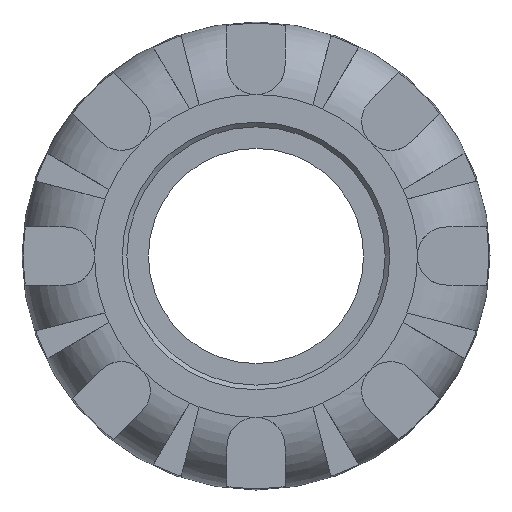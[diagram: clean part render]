
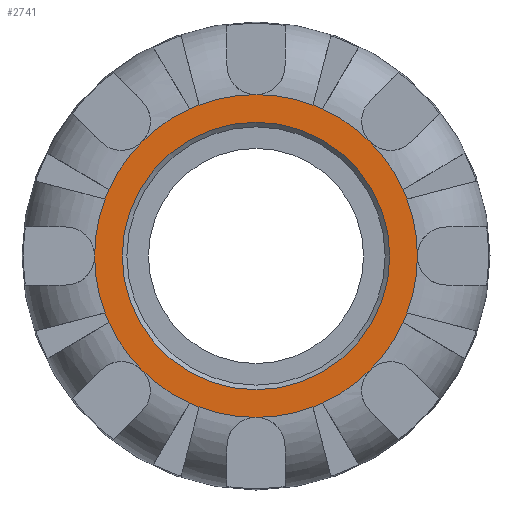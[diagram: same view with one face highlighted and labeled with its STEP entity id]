
A CAD part, left-side view. The second image highlights one B-rep face of the part: STEP entity #2741.
In plain terms, the highlighted planar face has unit normal (-1, 0, 0).
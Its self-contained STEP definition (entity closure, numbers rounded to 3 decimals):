
#22=FACE_BOUND('',#619,.T.);
#47=PLANE('',#2921);
#453=FACE_OUTER_BOUND('',#618,.T.);
#618=EDGE_LOOP('',(#1765,#1766,#1767,#1768,#1769,#1770,#1771,#1772,#1773,
#1774,#1775,#1776,#1777,#1778,#1779,#1780,#1781,#1782,#1783,#1784,#1785,
#1786,#1787,#1788));
#619=EDGE_LOOP('',(#1789));
#796=CIRCLE('',#2920,16.58);
#797=CIRCLE('',#2922,20.);
#798=CIRCLE('',#2923,20.);
#799=CIRCLE('',#2924,20.);
#800=CIRCLE('',#2925,20.);
#801=CIRCLE('',#2926,20.);
#802=CIRCLE('',#2927,20.);
#803=CIRCLE('',#2928,20.);
#804=CIRCLE('',#2929,20.);
#805=CIRCLE('',#2930,20.);
#806=CIRCLE('',#2931,20.);
#807=CIRCLE('',#2932,20.);
#808=CIRCLE('',#2933,20.);
#809=CIRCLE('',#2934,20.);
#810=CIRCLE('',#2935,20.);
#811=CIRCLE('',#2936,20.);
#812=CIRCLE('',#2937,20.);
#813=CIRCLE('',#2938,20.);
#814=CIRCLE('',#2939,20.);
#815=CIRCLE('',#2940,20.);
#816=CIRCLE('',#2941,20.);
#817=CIRCLE('',#2942,20.);
#818=CIRCLE('',#2943,20.);
#819=CIRCLE('',#2944,20.);
#820=CIRCLE('',#2945,20.);
#1066=VERTEX_POINT('',#4271);
#1067=VERTEX_POINT('',#4274);
#1068=VERTEX_POINT('',#4275);
#1069=VERTEX_POINT('',#4277);
#1070=VERTEX_POINT('',#4279);
#1071=VERTEX_POINT('',#4281);
#1072=VERTEX_POINT('',#4283);
#1073=VERTEX_POINT('',#4285);
#1074=VERTEX_POINT('',#4287);
#1075=VERTEX_POINT('',#4289);
#1076=VERTEX_POINT('',#4291);
#1077=VERTEX_POINT('',#4293);
#1078=VERTEX_POINT('',#4295);
#1079=VERTEX_POINT('',#4297);
#1080=VERTEX_POINT('',#4299);
#1081=VERTEX_POINT('',#4301);
#1082=VERTEX_POINT('',#4303);
#1083=VERTEX_POINT('',#4305);
#1084=VERTEX_POINT('',#4307);
#1085=VERTEX_POINT('',#4309);
#1086=VERTEX_POINT('',#4311);
#1087=VERTEX_POINT('',#4313);
#1088=VERTEX_POINT('',#4315);
#1089=VERTEX_POINT('',#4317);
#1090=VERTEX_POINT('',#4319);
#1336=EDGE_CURVE('',#1066,#1066,#796,.T.);
#1337=EDGE_CURVE('',#1067,#1068,#797,.T.);
#1338=EDGE_CURVE('',#1069,#1067,#798,.T.);
#1339=EDGE_CURVE('',#1070,#1069,#799,.T.);
#1340=EDGE_CURVE('',#1071,#1070,#800,.T.);
#1341=EDGE_CURVE('',#1072,#1071,#801,.T.);
#1342=EDGE_CURVE('',#1073,#1072,#802,.T.);
#1343=EDGE_CURVE('',#1074,#1073,#803,.T.);
#1344=EDGE_CURVE('',#1075,#1074,#804,.T.);
#1345=EDGE_CURVE('',#1076,#1075,#805,.T.);
#1346=EDGE_CURVE('',#1077,#1076,#806,.T.);
#1347=EDGE_CURVE('',#1078,#1077,#807,.T.);
#1348=EDGE_CURVE('',#1079,#1078,#808,.T.);
#1349=EDGE_CURVE('',#1080,#1079,#809,.T.);
#1350=EDGE_CURVE('',#1081,#1080,#810,.T.);
#1351=EDGE_CURVE('',#1082,#1081,#811,.T.);
#1352=EDGE_CURVE('',#1083,#1082,#812,.T.);
#1353=EDGE_CURVE('',#1084,#1083,#813,.T.);
#1354=EDGE_CURVE('',#1085,#1084,#814,.T.);
#1355=EDGE_CURVE('',#1086,#1085,#815,.T.);
#1356=EDGE_CURVE('',#1087,#1086,#816,.T.);
#1357=EDGE_CURVE('',#1088,#1087,#817,.T.);
#1358=EDGE_CURVE('',#1089,#1088,#818,.T.);
#1359=EDGE_CURVE('',#1090,#1089,#819,.T.);
#1360=EDGE_CURVE('',#1068,#1090,#820,.T.);
#1765=ORIENTED_EDGE('',*,*,#1337,.F.);
#1766=ORIENTED_EDGE('',*,*,#1338,.F.);
#1767=ORIENTED_EDGE('',*,*,#1339,.F.);
#1768=ORIENTED_EDGE('',*,*,#1340,.F.);
#1769=ORIENTED_EDGE('',*,*,#1341,.F.);
#1770=ORIENTED_EDGE('',*,*,#1342,.F.);
#1771=ORIENTED_EDGE('',*,*,#1343,.F.);
#1772=ORIENTED_EDGE('',*,*,#1344,.F.);
#1773=ORIENTED_EDGE('',*,*,#1345,.F.);
#1774=ORIENTED_EDGE('',*,*,#1346,.F.);
#1775=ORIENTED_EDGE('',*,*,#1347,.F.);
#1776=ORIENTED_EDGE('',*,*,#1348,.F.);
#1777=ORIENTED_EDGE('',*,*,#1349,.F.);
#1778=ORIENTED_EDGE('',*,*,#1350,.F.);
#1779=ORIENTED_EDGE('',*,*,#1351,.F.);
#1780=ORIENTED_EDGE('',*,*,#1352,.F.);
#1781=ORIENTED_EDGE('',*,*,#1353,.F.);
#1782=ORIENTED_EDGE('',*,*,#1354,.F.);
#1783=ORIENTED_EDGE('',*,*,#1355,.F.);
#1784=ORIENTED_EDGE('',*,*,#1356,.F.);
#1785=ORIENTED_EDGE('',*,*,#1357,.F.);
#1786=ORIENTED_EDGE('',*,*,#1358,.F.);
#1787=ORIENTED_EDGE('',*,*,#1359,.F.);
#1788=ORIENTED_EDGE('',*,*,#1360,.F.);
#1789=ORIENTED_EDGE('',*,*,#1336,.F.);
#2741=ADVANCED_FACE('',(#453,#22),#47,.T.);
#2920=AXIS2_PLACEMENT_3D('',#4272,#3271,#3272);
#2921=AXIS2_PLACEMENT_3D('',#4273,#3273,#3274);
#2922=AXIS2_PLACEMENT_3D('',#4276,#3275,#3276);
#2923=AXIS2_PLACEMENT_3D('',#4278,#3277,#3278);
#2924=AXIS2_PLACEMENT_3D('',#4280,#3279,#3280);
#2925=AXIS2_PLACEMENT_3D('',#4282,#3281,#3282);
#2926=AXIS2_PLACEMENT_3D('',#4284,#3283,#3284);
#2927=AXIS2_PLACEMENT_3D('',#4286,#3285,#3286);
#2928=AXIS2_PLACEMENT_3D('',#4288,#3287,#3288);
#2929=AXIS2_PLACEMENT_3D('',#4290,#3289,#3290);
#2930=AXIS2_PLACEMENT_3D('',#4292,#3291,#3292);
#2931=AXIS2_PLACEMENT_3D('',#4294,#3293,#3294);
#2932=AXIS2_PLACEMENT_3D('',#4296,#3295,#3296);
#2933=AXIS2_PLACEMENT_3D('',#4298,#3297,#3298);
#2934=AXIS2_PLACEMENT_3D('',#4300,#3299,#3300);
#2935=AXIS2_PLACEMENT_3D('',#4302,#3301,#3302);
#2936=AXIS2_PLACEMENT_3D('',#4304,#3303,#3304);
#2937=AXIS2_PLACEMENT_3D('',#4306,#3305,#3306);
#2938=AXIS2_PLACEMENT_3D('',#4308,#3307,#3308);
#2939=AXIS2_PLACEMENT_3D('',#4310,#3309,#3310);
#2940=AXIS2_PLACEMENT_3D('',#4312,#3311,#3312);
#2941=AXIS2_PLACEMENT_3D('',#4314,#3313,#3314);
#2942=AXIS2_PLACEMENT_3D('',#4316,#3315,#3316);
#2943=AXIS2_PLACEMENT_3D('',#4318,#3317,#3318);
#2944=AXIS2_PLACEMENT_3D('',#4320,#3319,#3320);
#2945=AXIS2_PLACEMENT_3D('',#4321,#3321,#3322);
#3271=DIRECTION('center_axis',(-1.,0.,0.));
#3272=DIRECTION('ref_axis',(0.,-1.,0.));
#3273=DIRECTION('center_axis',(-1.,0.,0.));
#3274=DIRECTION('ref_axis',(0.,0.,1.));
#3275=DIRECTION('center_axis',(1.,0.,0.));
#3276=DIRECTION('ref_axis',(0.,0.,-1.));
#3277=DIRECTION('center_axis',(1.,0.,0.));
#3278=DIRECTION('ref_axis',(0.,0.,-1.));
#3279=DIRECTION('center_axis',(1.,0.,0.));
#3280=DIRECTION('ref_axis',(0.,0.,-1.));
#3281=DIRECTION('center_axis',(1.,0.,0.));
#3282=DIRECTION('ref_axis',(0.,0.,-1.));
#3283=DIRECTION('center_axis',(1.,0.,0.));
#3284=DIRECTION('ref_axis',(0.,0.,-1.));
#3285=DIRECTION('center_axis',(1.,0.,0.));
#3286=DIRECTION('ref_axis',(0.,0.,-1.));
#3287=DIRECTION('center_axis',(1.,0.,0.));
#3288=DIRECTION('ref_axis',(0.,0.,-1.));
#3289=DIRECTION('center_axis',(1.,0.,0.));
#3290=DIRECTION('ref_axis',(0.,0.,-1.));
#3291=DIRECTION('center_axis',(1.,0.,0.));
#3292=DIRECTION('ref_axis',(0.,0.,-1.));
#3293=DIRECTION('center_axis',(1.,0.,0.));
#3294=DIRECTION('ref_axis',(0.,0.,-1.));
#3295=DIRECTION('center_axis',(1.,0.,0.));
#3296=DIRECTION('ref_axis',(0.,0.,-1.));
#3297=DIRECTION('center_axis',(1.,0.,0.));
#3298=DIRECTION('ref_axis',(0.,0.,-1.));
#3299=DIRECTION('center_axis',(1.,0.,0.));
#3300=DIRECTION('ref_axis',(0.,0.,-1.));
#3301=DIRECTION('center_axis',(1.,0.,0.));
#3302=DIRECTION('ref_axis',(0.,0.,-1.));
#3303=DIRECTION('center_axis',(1.,0.,0.));
#3304=DIRECTION('ref_axis',(0.,0.,-1.));
#3305=DIRECTION('center_axis',(1.,0.,0.));
#3306=DIRECTION('ref_axis',(0.,0.,-1.));
#3307=DIRECTION('center_axis',(1.,0.,0.));
#3308=DIRECTION('ref_axis',(0.,0.,-1.));
#3309=DIRECTION('center_axis',(1.,0.,0.));
#3310=DIRECTION('ref_axis',(0.,0.,-1.));
#3311=DIRECTION('center_axis',(1.,0.,0.));
#3312=DIRECTION('ref_axis',(0.,0.,-1.));
#3313=DIRECTION('center_axis',(1.,0.,0.));
#3314=DIRECTION('ref_axis',(0.,0.,-1.));
#3315=DIRECTION('center_axis',(1.,0.,0.));
#3316=DIRECTION('ref_axis',(0.,0.,-1.));
#3317=DIRECTION('center_axis',(1.,0.,0.));
#3318=DIRECTION('ref_axis',(0.,0.,-1.));
#3319=DIRECTION('center_axis',(1.,0.,0.));
#3320=DIRECTION('ref_axis',(0.,0.,-1.));
#3321=DIRECTION('center_axis',(1.,0.,0.));
#3322=DIRECTION('ref_axis',(0.,0.,-1.));
#4271=CARTESIAN_POINT('',(-54.,16.58,0.));
#4272=CARTESIAN_POINT('Origin',(-54.,0.,0.));
#4273=CARTESIAN_POINT('Origin',(-54.,20.,0.));
#4274=CARTESIAN_POINT('',(-54.,20.,0.));
#4275=CARTESIAN_POINT('',(-54.,18.713,7.058));
#4276=CARTESIAN_POINT('Origin',(-54.,0.,0.));
#4277=CARTESIAN_POINT('',(-54.,18.713,-7.058));
#4278=CARTESIAN_POINT('Origin',(-54.,0.,0.));
#4279=CARTESIAN_POINT('',(-54.,18.223,-8.241));
#4280=CARTESIAN_POINT('Origin',(-54.,0.,0.));
#4281=CARTESIAN_POINT('',(-54.,14.142,-14.142));
#4282=CARTESIAN_POINT('Origin',(-54.,0.,0.));
#4283=CARTESIAN_POINT('',(-54.,8.241,-18.223));
#4284=CARTESIAN_POINT('Origin',(-54.,0.,0.));
#4285=CARTESIAN_POINT('',(-54.,7.058,-18.713));
#4286=CARTESIAN_POINT('Origin',(-54.,0.,0.));
#4287=CARTESIAN_POINT('',(-54.,0.,-20.));
#4288=CARTESIAN_POINT('Origin',(-54.,0.,0.));
#4289=CARTESIAN_POINT('',(-54.,-7.058,-18.713));
#4290=CARTESIAN_POINT('Origin',(-54.,0.,0.));
#4291=CARTESIAN_POINT('',(-54.,-8.241,-18.223));
#4292=CARTESIAN_POINT('Origin',(-54.,0.,0.));
#4293=CARTESIAN_POINT('',(-54.,-14.142,-14.142));
#4294=CARTESIAN_POINT('Origin',(-54.,0.,0.));
#4295=CARTESIAN_POINT('',(-54.,-18.223,-8.241));
#4296=CARTESIAN_POINT('Origin',(-54.,0.,0.));
#4297=CARTESIAN_POINT('',(-54.,-18.713,-7.058));
#4298=CARTESIAN_POINT('Origin',(-54.,0.,0.));
#4299=CARTESIAN_POINT('',(-54.,-20.,0.));
#4300=CARTESIAN_POINT('Origin',(-54.,0.,0.));
#4301=CARTESIAN_POINT('',(-54.,-18.713,7.058));
#4302=CARTESIAN_POINT('Origin',(-54.,0.,0.));
#4303=CARTESIAN_POINT('',(-54.,-18.223,8.241));
#4304=CARTESIAN_POINT('Origin',(-54.,0.,0.));
#4305=CARTESIAN_POINT('',(-54.,-14.142,14.142));
#4306=CARTESIAN_POINT('Origin',(-54.,0.,0.));
#4307=CARTESIAN_POINT('',(-54.,-8.241,18.223));
#4308=CARTESIAN_POINT('Origin',(-54.,0.,0.));
#4309=CARTESIAN_POINT('',(-54.,-7.058,18.713));
#4310=CARTESIAN_POINT('Origin',(-54.,0.,0.));
#4311=CARTESIAN_POINT('',(-54.,0.,20.));
#4312=CARTESIAN_POINT('Origin',(-54.,0.,0.));
#4313=CARTESIAN_POINT('',(-54.,7.058,18.713));
#4314=CARTESIAN_POINT('Origin',(-54.,0.,0.));
#4315=CARTESIAN_POINT('',(-54.,8.241,18.223));
#4316=CARTESIAN_POINT('Origin',(-54.,0.,0.));
#4317=CARTESIAN_POINT('',(-54.,14.142,14.142));
#4318=CARTESIAN_POINT('Origin',(-54.,0.,0.));
#4319=CARTESIAN_POINT('',(-54.,18.223,8.241));
#4320=CARTESIAN_POINT('Origin',(-54.,0.,0.));
#4321=CARTESIAN_POINT('Origin',(-54.,0.,0.));
